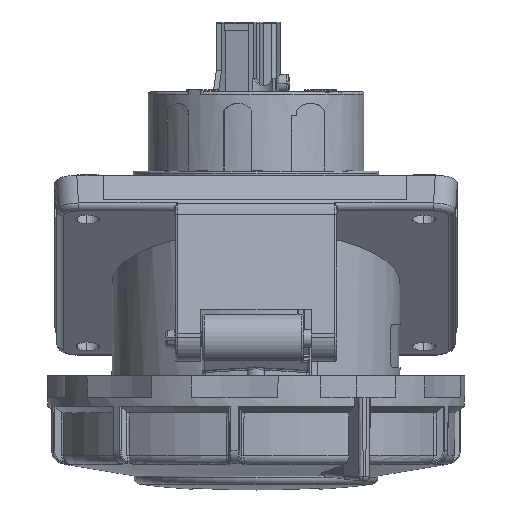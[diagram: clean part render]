
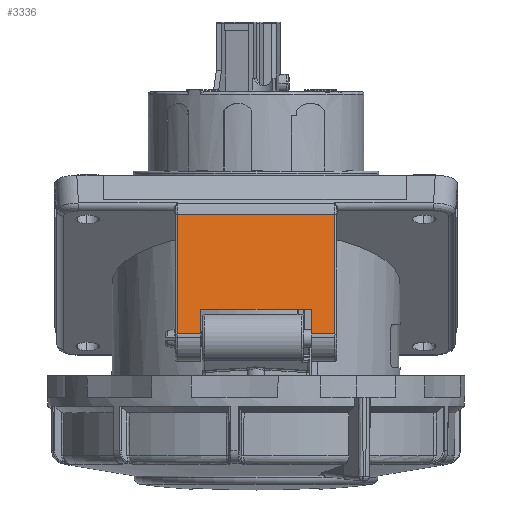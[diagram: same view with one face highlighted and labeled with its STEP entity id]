
A CAD part, front view. The second image highlights one B-rep face of the part: STEP entity #3336.
In plain terms, the highlighted planar face has unit normal (0, -0.991, 0.131).
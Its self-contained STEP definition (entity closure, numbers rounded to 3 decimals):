
#58 = VERTEX_POINT ( 'NONE', #19191 ) ;
#1456 = VECTOR ( 'NONE', #8091, 1000. ) ;
#1502 = CARTESIAN_POINT ( 'NONE',  ( 183.4, 356.27, 16.37 ) ) ;
#2745 = DIRECTION ( 'NONE',  ( 0., -0.131, -0.991 ) ) ;
#2980 = VERTEX_POINT ( 'NONE', #54157 ) ;
#3336 = ADVANCED_FACE ( 'NONE', ( #40240 ), #31345, .T. ) ;
#3753 = VECTOR ( 'NONE', #7264, 1000. ) ;
#4223 = LINE ( 'NONE', #17575, #37648 ) ;
#4750 = ORIENTED_EDGE ( 'NONE', *, *, #12304, .F. ) ;
#6613 = VECTOR ( 'NONE', #15422, 1000. ) ;
#7201 = CARTESIAN_POINT ( 'NONE',  ( 208.6, 356.27, 16.37 ) ) ;
#7264 = DIRECTION ( 'NONE',  ( -1., 0., 0. ) ) ;
#8091 = DIRECTION ( 'NONE',  ( 1., 0., 0. ) ) ;
#9358 = ORIENTED_EDGE ( 'NONE', *, *, #39631, .T. ) ;
#9739 = LINE ( 'NONE', #50033, #53547 ) ;
#9958 = VERTEX_POINT ( 'NONE', #40601 ) ;
#10947 = VECTOR ( 'NONE', #2745, 1000. ) ;
#12304 = EDGE_CURVE ( 'NONE', #2980, #9958, #9739, .T. ) ;
#12761 = CARTESIAN_POINT ( 'NONE',  ( 208.6, 352.485, -12.255 ) ) ;
#12969 = DIRECTION ( 'NONE',  ( 0., -0.991, 0.131 ) ) ;
#14630 = EDGE_CURVE ( 'NONE', #58, #30184, #47843, .T. ) ;
#14977 = VERTEX_POINT ( 'NONE', #42789 ) ;
#15422 = DIRECTION ( 'NONE',  ( 0., -0.131, -0.991 ) ) ;
#16968 = DIRECTION ( 'NONE',  ( -1., 0., 0. ) ) ;
#17575 = CARTESIAN_POINT ( 'NONE',  ( 11., 352.485, -12.255 ) ) ;
#19191 = CARTESIAN_POINT ( 'NONE',  ( 214., 356.1, 15.087 ) ) ;
#20556 = LINE ( 'NONE', #7201, #10947 ) ;
#20877 = ORIENTED_EDGE ( 'NONE', *, *, #49729, .F. ) ;
#21490 = CARTESIAN_POINT ( 'NONE',  ( 11., 356.1, 15.087 ) ) ;
#22251 = EDGE_CURVE ( 'NONE', #2980, #27969, #20556, .T. ) ;
#23932 = CARTESIAN_POINT ( 'NONE',  ( 214., 356.27, 16.37 ) ) ;
#24805 = DIRECTION ( 'NONE',  ( 0., -0.131, -0.991 ) ) ;
#26007 = EDGE_CURVE ( 'NONE', #48530, #58, #28416, .T. ) ;
#26118 = VECTOR ( 'NONE', #24805, 1000. ) ;
#27969 = VERTEX_POINT ( 'NONE', #12761 ) ;
#28416 = LINE ( 'NONE', #23932, #30083 ) ;
#28974 = CARTESIAN_POINT ( 'NONE',  ( 178., 356.27, 16.37 ) ) ;
#29275 = LINE ( 'NONE', #28974, #26118 ) ;
#30083 = VECTOR ( 'NONE', #51435, 1000. ) ;
#30184 = VERTEX_POINT ( 'NONE', #52723 ) ;
#31345 = PLANE ( 'NONE',  #40358 ) ;
#32416 = EDGE_CURVE ( 'NONE', #27969, #48530, #52522, .T. ) ;
#34252 = VERTEX_POINT ( 'NONE', #34994 ) ;
#34465 = CARTESIAN_POINT ( 'NONE',  ( 214., 352.485, -12.255 ) ) ;
#34994 = CARTESIAN_POINT ( 'NONE',  ( 178., 352.485, -12.255 ) ) ;
#35070 = CARTESIAN_POINT ( 'NONE',  ( 11., 352.485, -12.255 ) ) ;
#35490 = CARTESIAN_POINT ( 'NONE',  ( 11., 356.27, 16.37 ) ) ;
#37640 = ORIENTED_EDGE ( 'NONE', *, *, #32416, .T. ) ;
#37648 = VECTOR ( 'NONE', #40428, 1000. ) ;
#38873 = LINE ( 'NONE', #1502, #6613 ) ;
#39631 = EDGE_CURVE ( 'NONE', #30184, #34252, #29275, .T. ) ;
#40240 = FACE_OUTER_BOUND ( 'NONE', #45787, .T. ) ;
#40358 = AXIS2_PLACEMENT_3D ( 'NONE', #35490, #12969, #49375 ) ;
#40428 = DIRECTION ( 'NONE',  ( 1., 0., 0. ) ) ;
#40601 = CARTESIAN_POINT ( 'NONE',  ( 183.4, 353.235, -6.583 ) ) ;
#41277 = ORIENTED_EDGE ( 'NONE', *, *, #14630, .T. ) ;
#42178 = EDGE_CURVE ( 'NONE', #34252, #14977, #4223, .T. ) ;
#42789 = CARTESIAN_POINT ( 'NONE',  ( 183.4, 352.485, -12.255 ) ) ;
#45787 = EDGE_LOOP ( 'NONE', ( #20877, #4750, #52685, #37640, #45789, #41277, #9358, #51676 ) ) ;
#45789 = ORIENTED_EDGE ( 'NONE', *, *, #26007, .T. ) ;
#47843 = LINE ( 'NONE', #21490, #3753 ) ;
#48530 = VERTEX_POINT ( 'NONE', #34465 ) ;
#49375 = DIRECTION ( 'NONE',  ( -1., 0., 0. ) ) ;
#49729 = EDGE_CURVE ( 'NONE', #9958, #14977, #38873, .T. ) ;
#50033 = CARTESIAN_POINT ( 'NONE',  ( 209.19, 353.235, -6.583 ) ) ;
#51435 = DIRECTION ( 'NONE',  ( 0., 0.131, 0.991 ) ) ;
#51676 = ORIENTED_EDGE ( 'NONE', *, *, #42178, .T. ) ;
#52522 = LINE ( 'NONE', #35070, #1456 ) ;
#52685 = ORIENTED_EDGE ( 'NONE', *, *, #22251, .T. ) ;
#52723 = CARTESIAN_POINT ( 'NONE',  ( 178., 356.1, 15.087 ) ) ;
#53547 = VECTOR ( 'NONE', #16968, 1000. ) ;
#54157 = CARTESIAN_POINT ( 'NONE',  ( 208.6, 353.235, -6.583 ) ) ;
